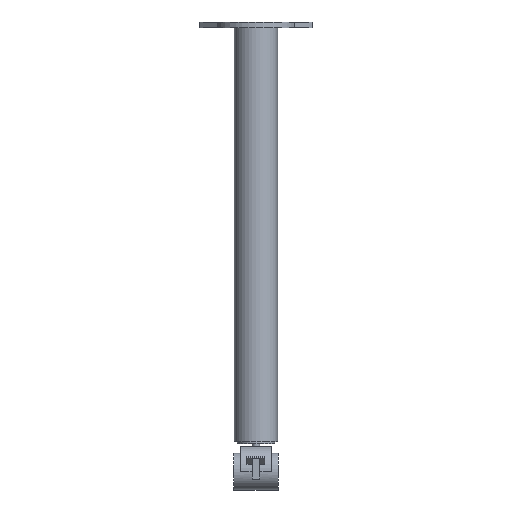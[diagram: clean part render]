
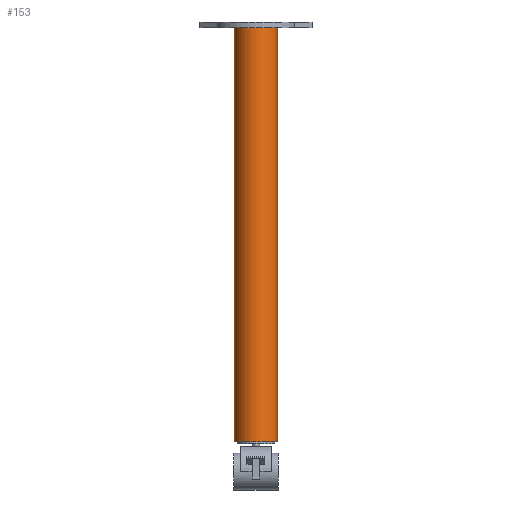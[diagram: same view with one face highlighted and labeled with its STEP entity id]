
A CAD part, front view. The second image highlights one B-rep face of the part: STEP entity #153.
In plain terms, the highlighted cylindrical face has radius 30 mm (diameter 60 mm), a full revolution.
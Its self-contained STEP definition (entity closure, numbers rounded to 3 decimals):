
#153 = ADVANCED_FACE( '', ( #339, #340 ), #341, .T. );
#339 = FACE_OUTER_BOUND( '', #608, .T. );
#340 = FACE_OUTER_BOUND( '', #609, .T. );
#341 = CYLINDRICAL_SURFACE( '', #610, 30. );
#608 = EDGE_LOOP( '', ( #914 ) );
#609 = EDGE_LOOP( '', ( #915 ) );
#610 = AXIS2_PLACEMENT_3D( '', #916, #917, #918 );
#914 = ORIENTED_EDGE( '', *, *, #1511, .T. );
#915 = ORIENTED_EDGE( '', *, *, #1512, .F. );
#916 = CARTESIAN_POINT( '', ( 0., 0., -575. ) );
#917 = DIRECTION( '', ( 0., 0., -1. ) );
#918 = DIRECTION( '', ( 1., 0., 0. ) );
#1511 = EDGE_CURVE( '', #1788, #1788, #1789, .T. );
#1512 = EDGE_CURVE( '', #1790, #1790, #1791, .T. );
#1788 = VERTEX_POINT( '', #2183 );
#1789 = CIRCLE( '', #2184, 30. );
#1790 = VERTEX_POINT( '', #2185 );
#1791 = CIRCLE( '', #2186, 30. );
#2183 = CARTESIAN_POINT( '', ( 30., 0., -575. ) );
#2184 = AXIS2_PLACEMENT_3D( '', #2587, #2588, #2589 );
#2185 = CARTESIAN_POINT( '', ( 30., 0., 0. ) );
#2186 = AXIS2_PLACEMENT_3D( '', #2590, #2591, #2592 );
#2587 = CARTESIAN_POINT( '', ( 0., 0., -575. ) );
#2588 = DIRECTION( '', ( 0., 0., 1. ) );
#2589 = DIRECTION( '', ( 1., 0., 0. ) );
#2590 = CARTESIAN_POINT( '', ( 0., 0., 0. ) );
#2591 = DIRECTION( '', ( 0., 0., 1. ) );
#2592 = DIRECTION( '', ( 1., 0., 0. ) );
